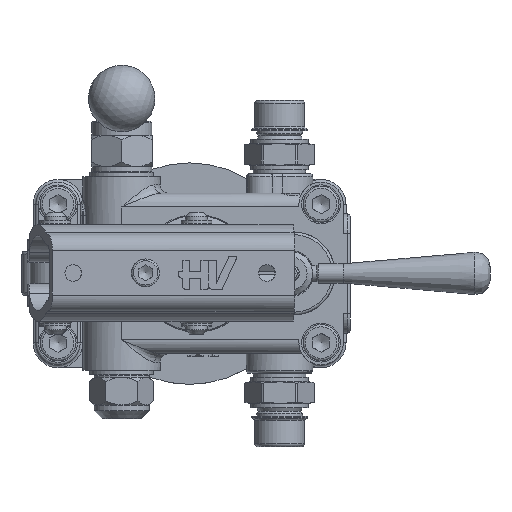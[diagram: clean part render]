
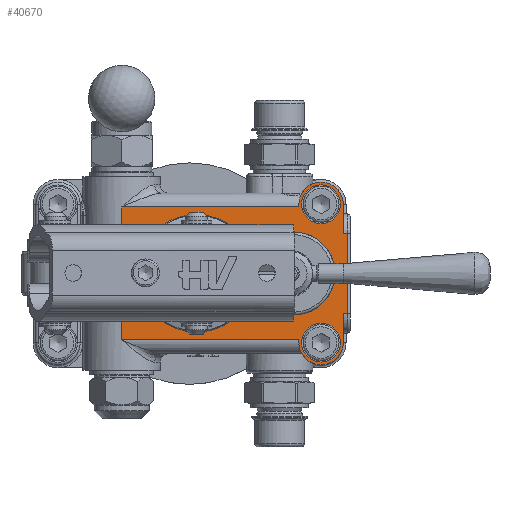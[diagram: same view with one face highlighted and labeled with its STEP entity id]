
A CAD part, top view. The second image highlights one B-rep face of the part: STEP entity #40670.
In plain terms, the highlighted planar face has unit normal (0, 0, 1).
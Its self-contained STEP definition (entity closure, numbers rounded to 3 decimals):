
#18417=CARTESIAN_POINT('',(55.058,15.411,43.));
#18418=VERTEX_POINT('',#18417);
#18419=CARTESIAN_POINT('',(59.,34.,43.));
#18420=DIRECTION('',(0.,0.,-1.0));
#18421=DIRECTION('',(0.207,0.978,0.));
#18422=AXIS2_PLACEMENT_3D('',#18419,#18420,#18421);
#18423=CIRCLE('',#18422,19.002);
#18424=EDGE_CURVE('',#18418,#18418,#18423,.T.);
#39013=CARTESIAN_POINT('',(96.,58.,43.));
#39014=VERTEX_POINT('',#39013);
#39022=CARTESIAN_POINT('',(96.,59.,43.));
#39023=VERTEX_POINT('',#39022);
#39024=CARTESIAN_POINT('',(96.,58.,43.));
#39025=DIRECTION('',(0.0,1.0,0.0));
#39026=VECTOR('',#39025,1.);
#39027=LINE('',#39024,#39026);
#39028=EDGE_CURVE('',#39014,#39023,#39027,.T.);
#39044=CARTESIAN_POINT('',(96.0,10.0,43.));
#39045=VERTEX_POINT('',#39044);
#39055=CARTESIAN_POINT('',(96.0,9.,43.));
#39056=VERTEX_POINT('',#39055);
#39063=CARTESIAN_POINT('',(96.,9.,43.));
#39064=DIRECTION('',(0.0,1.0,0.0));
#39065=VECTOR('',#39064,1.);
#39066=LINE('',#39063,#39065);
#39067=EDGE_CURVE('',#39056,#39045,#39066,.T.);
#39226=CARTESIAN_POINT('',(32.,44.122,43.));
#39227=VERTEX_POINT('',#39226);
#39276=CARTESIAN_POINT('',(33.732,41.0,43.));
#39277=VERTEX_POINT('',#39276);
#39285=CARTESIAN_POINT('',(33.732,41.0,43.));
#39286=CARTESIAN_POINT('',(33.732,41.528,43.));
#39287=CARTESIAN_POINT('',(33.438,42.767,43.));
#39288=CARTESIAN_POINT('',(32.582,43.719,43.));
#39289=CARTESIAN_POINT('',(32.,44.122,43.));
#39290=B_SPLINE_CURVE_WITH_KNOTS('',3,(#39285,#39286,#39287,#39288,#39289),.UNSPECIFIED.,.F.,.U.,(4,1,4),(2.696,2.855,3.066),.UNSPECIFIED.);
#39291=EDGE_CURVE('',#39277,#39227,#39290,.T.);
#39303=CARTESIAN_POINT('',(33.732,27.,43.));
#39304=VERTEX_POINT('',#39303);
#39312=CARTESIAN_POINT('',(33.732,27.,43.));
#39313=DIRECTION('',(0.0,1.0,0.0));
#39314=VECTOR('',#39313,14.);
#39315=LINE('',#39312,#39314);
#39316=EDGE_CURVE('',#39304,#39277,#39315,.T.);
#39349=CARTESIAN_POINT('',(32.,23.878,43.));
#39350=VERTEX_POINT('',#39349);
#39358=CARTESIAN_POINT('',(32.,23.878,43.));
#39359=CARTESIAN_POINT('',(32.433,24.178,43.));
#39360=CARTESIAN_POINT('',(33.336,25.067,43.));
#39361=CARTESIAN_POINT('',(33.732,26.29,43.0));
#39362=CARTESIAN_POINT('',(33.732,27.,43.));
#39363=B_SPLINE_CURVE_WITH_KNOTS('',3,(#39358,#39359,#39360,#39361,#39362),.UNSPECIFIED.,.F.,.U.,(4,1,4),(2.696,2.854,3.065),.UNSPECIFIED.);
#39364=EDGE_CURVE('',#39350,#39304,#39363,.T.);
#40068=CARTESIAN_POINT('',(112.0,59.,43.));
#40069=VERTEX_POINT('',#40068);
#40076=CARTESIAN_POINT('',(112.,48.5,43.));
#40077=VERTEX_POINT('',#40076);
#40078=CARTESIAN_POINT('',(112.0,59.,43.));
#40079=DIRECTION('',(0.0,-1.0,0.0));
#40080=VECTOR('',#40079,10.5);
#40081=LINE('',#40078,#40080);
#40082=EDGE_CURVE('',#40069,#40077,#40081,.T.);
#40197=CARTESIAN_POINT('',(112.0,19.5,43.));
#40198=VERTEX_POINT('',#40197);
#40206=CARTESIAN_POINT('',(112.,9.,43.));
#40207=VERTEX_POINT('',#40206);
#40208=CARTESIAN_POINT('',(112.,19.5,43.));
#40209=DIRECTION('',(0.0,-1.0,0.0));
#40210=VECTOR('',#40209,10.5);
#40211=LINE('',#40208,#40210);
#40212=EDGE_CURVE('',#40198,#40207,#40211,.T.);
#40535=CARTESIAN_POINT('',(113.5,48.5,43.));
#40536=VERTEX_POINT('',#40535);
#40546=CARTESIAN_POINT('',(112.,48.5,43.));
#40547=DIRECTION('',(1.0,0.0,0.0));
#40548=VECTOR('',#40547,1.5);
#40549=LINE('',#40546,#40548);
#40550=EDGE_CURVE('',#40077,#40536,#40549,.T.);
#40555=CARTESIAN_POINT('',(104.,34.,43.));
#40556=DIRECTION('',(0.0,0.0,1.0));
#40557=DIRECTION('',(1.0,0.0,0.0));
#40558=AXIS2_PLACEMENT_3D('',#40555,#40556,#40557);
#40559=PLANE('',#40558);
#40560=CARTESIAN_POINT('',(113.5,19.5,43.));
#40561=VERTEX_POINT('',#40560);
#40562=CARTESIAN_POINT('',(113.5,48.5,43.));
#40563=DIRECTION('',(0.0,-1.0,0.0));
#40564=VECTOR('',#40563,29.);
#40565=LINE('',#40562,#40564);
#40566=EDGE_CURVE('',#40536,#40561,#40565,.T.);
#40567=ORIENTED_EDGE('',*,*,#40566,.F.);
#40568=ORIENTED_EDGE('',*,*,#40550,.F.);
#40569=ORIENTED_EDGE('',*,*,#40082,.F.);
#40570=CARTESIAN_POINT('',(104.,59.,43.));
#40571=DIRECTION('',(0.0,0.0,-1.0));
#40572=DIRECTION('',(1.0,0.0,0.0));
#40573=AXIS2_PLACEMENT_3D('',#40570,#40571,#40572);
#40574=CIRCLE('',#40573,8.0);
#40575=EDGE_CURVE('',#39023,#40069,#40574,.T.);
#40576=ORIENTED_EDGE('',*,*,#40575,.F.);
#40577=ORIENTED_EDGE('',*,*,#39028,.F.);
#40578=CARTESIAN_POINT('',(32.,58.,43.));
#40579=VERTEX_POINT('',#40578);
#40580=CARTESIAN_POINT('',(96.,58.,43.));
#40581=DIRECTION('',(-1.0,0.0,0.0));
#40582=VECTOR('',#40581,64.);
#40583=LINE('',#40580,#40582);
#40584=EDGE_CURVE('',#39014,#40579,#40583,.T.);
#40585=ORIENTED_EDGE('',*,*,#40584,.T.);
#40586=CARTESIAN_POINT('',(32.0,44.122,43.0));
#40587=DIRECTION('',(0.0,1.0,0.0));
#40588=VECTOR('',#40587,13.878);
#40589=LINE('',#40586,#40588);
#40590=EDGE_CURVE('',#39227,#40579,#40589,.T.);
#40591=ORIENTED_EDGE('',*,*,#40590,.F.);
#40592=ORIENTED_EDGE('',*,*,#39291,.F.);
#40593=ORIENTED_EDGE('',*,*,#39316,.F.);
#40594=ORIENTED_EDGE('',*,*,#39364,.F.);
#40595=CARTESIAN_POINT('',(32.,10.0,43.));
#40596=VERTEX_POINT('',#40595);
#40597=CARTESIAN_POINT('',(32.0,10.,43.0));
#40598=DIRECTION('',(0.0,1.0,0.0));
#40599=VECTOR('',#40598,13.878);
#40600=LINE('',#40597,#40599);
#40601=EDGE_CURVE('',#40596,#39350,#40600,.T.);
#40602=ORIENTED_EDGE('',*,*,#40601,.F.);
#40603=CARTESIAN_POINT('',(96.0,10.0,43.));
#40604=DIRECTION('',(-1.0,0.0,0.0));
#40605=VECTOR('',#40604,64.);
#40606=LINE('',#40603,#40605);
#40607=EDGE_CURVE('',#39045,#40596,#40606,.T.);
#40608=ORIENTED_EDGE('',*,*,#40607,.F.);
#40609=ORIENTED_EDGE('',*,*,#39067,.F.);
#40610=CARTESIAN_POINT('',(104.0,9.,43.));
#40611=DIRECTION('',(0.0,0.0,-1.0));
#40612=DIRECTION('',(-1.0,0.0,0.0));
#40613=AXIS2_PLACEMENT_3D('',#40610,#40611,#40612);
#40614=CIRCLE('',#40613,8.0);
#40615=EDGE_CURVE('',#40207,#39056,#40614,.T.);
#40616=ORIENTED_EDGE('',*,*,#40615,.F.);
#40617=ORIENTED_EDGE('',*,*,#40212,.F.);
#40618=CARTESIAN_POINT('',(112.0,19.5,43.));
#40619=DIRECTION('',(1.0,0.0,0.0));
#40620=VECTOR('',#40619,1.5);
#40621=LINE('',#40618,#40620);
#40622=EDGE_CURVE('',#40198,#40561,#40621,.T.);
#40623=ORIENTED_EDGE('',*,*,#40622,.T.);
#40624=EDGE_LOOP('',(#40567,#40568,#40569,#40576,#40577,#40585,#40591,#40592,#40593,#40594,#40602,#40608,#40609,#40616,#40617,#40623));
#40625=FACE_OUTER_BOUND('',#40624,.T.);
#40626=ORIENTED_EDGE('',*,*,#18424,.T.);
#40627=EDGE_LOOP('',(#40626));
#40628=FACE_BOUND('',#40627,.T.);
#40629=CARTESIAN_POINT('',(111.,59.,43.));
#40630=VERTEX_POINT('',#40629);
#40631=CARTESIAN_POINT('',(104.,59.,43.));
#40632=DIRECTION('',(0.0,0.0,-1.0));
#40633=DIRECTION('',(1.0,0.0,0.0));
#40634=AXIS2_PLACEMENT_3D('',#40631,#40632,#40633);
#40635=CIRCLE('',#40634,7.);
#40636=EDGE_CURVE('',#40630,#40630,#40635,.T.);
#40637=ORIENTED_EDGE('',*,*,#40636,.T.);
#40638=EDGE_LOOP('',(#40637));
#40639=FACE_BOUND('',#40638,.T.);
#40640=CARTESIAN_POINT('',(111.0,9.,43.));
#40641=VERTEX_POINT('',#40640);
#40642=CARTESIAN_POINT('',(104.0,9.,43.));
#40643=DIRECTION('',(0.0,0.0,-1.0));
#40644=DIRECTION('',(1.0,0.0,0.0));
#40645=AXIS2_PLACEMENT_3D('',#40642,#40643,#40644);
#40646=CIRCLE('',#40645,7.);
#40647=EDGE_CURVE('',#40641,#40641,#40646,.T.);
#40648=ORIENTED_EDGE('',*,*,#40647,.T.);
#40649=EDGE_LOOP('',(#40648));
#40650=FACE_BOUND('',#40649,.T.);
#40651=CARTESIAN_POINT('',(83.0,44.198,43.));
#40652=VERTEX_POINT('',#40651);
#40653=CARTESIAN_POINT('',(83.0,23.802,43.));
#40654=VERTEX_POINT('',#40653);
#40655=CARTESIAN_POINT('',(94.,34.0,43.));
#40656=DIRECTION('',(0.0,0.0,-1.0));
#40657=DIRECTION('',(-1.0,0.0,0.0));
#40658=AXIS2_PLACEMENT_3D('',#40655,#40656,#40657);
#40659=CIRCLE('',#40658,15.0);
#40660=EDGE_CURVE('',#40652,#40654,#40659,.T.);
#40661=ORIENTED_EDGE('',*,*,#40660,.T.);
#40662=CARTESIAN_POINT('',(83.0,23.802,43.));
#40663=DIRECTION('',(0.0,1.0,0.0));
#40664=VECTOR('',#40663,20.396);
#40665=LINE('',#40662,#40664);
#40666=EDGE_CURVE('',#40654,#40652,#40665,.T.);
#40667=ORIENTED_EDGE('',*,*,#40666,.T.);
#40668=EDGE_LOOP('',(#40661,#40667));
#40669=FACE_BOUND('',#40668,.T.);
#40670=ADVANCED_FACE('',(#40625,#40628,#40639,#40650,#40669),#40559,.T.);
